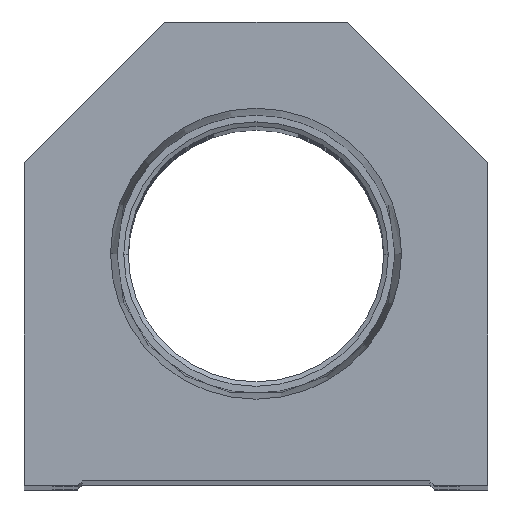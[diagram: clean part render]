
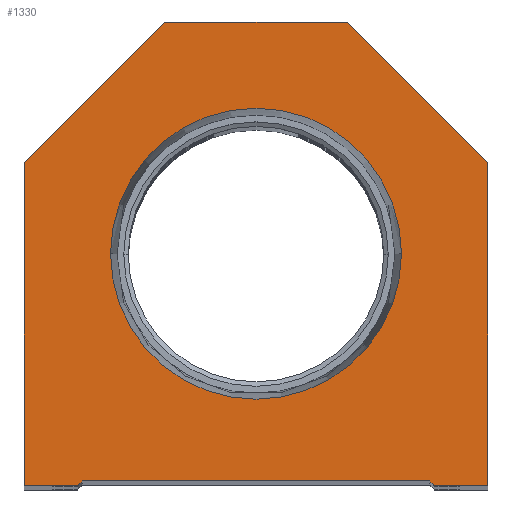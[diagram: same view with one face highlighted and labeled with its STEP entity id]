
A CAD part, top view. The second image highlights one B-rep face of the part: STEP entity #1330.
In plain terms, the highlighted planar face has unit normal (0, 0, 1).
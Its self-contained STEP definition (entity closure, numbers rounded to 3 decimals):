
#5 = LINE ( 'NONE', #4598, #6309 ) ;
#78 = CARTESIAN_POINT ( 'NONE',  ( 0., 25.4, 0. ) ) ;
#231 = DIRECTION ( 'NONE',  ( -0.707, -0.707, 0. ) ) ;
#657 = CARTESIAN_POINT ( 'NONE',  ( 0., 0., 0. ) ) ;
#718 = VERTEX_POINT ( 'NONE', #1663 ) ;
#1018 = LINE ( 'NONE', #8830, #2600 ) ;
#1021 = VECTOR ( 'NONE', #13119, 1000. ) ;
#1072 = DIRECTION ( 'NONE',  ( 0., 0., 1. ) ) ;
#1330 = ADVANCED_FACE ( 'NONE', ( #2221, #18468 ), #15272, .T. ) ;
#1374 = VERTEX_POINT ( 'NONE', #7094 ) ;
#1663 = CARTESIAN_POINT ( 'NONE',  ( -25.4, 35.4, 0. ) ) ;
#1806 = CARTESIAN_POINT ( 'NONE',  ( -25.4, 0., 0. ) ) ;
#2172 = VERTEX_POINT ( 'NONE', #19050 ) ;
#2221 = FACE_BOUND ( 'NONE', #9156, .T. ) ;
#2600 = VECTOR ( 'NONE', #20106, 1000. ) ;
#2701 = ORIENTED_EDGE ( 'NONE', *, *, #4741, .T. ) ;
#2799 = DIRECTION ( 'NONE',  ( 0., -1., 0. ) ) ;
#2913 = VECTOR ( 'NONE', #8258, 1000. ) ;
#2967 = DIRECTION ( 'NONE',  ( 1., 0., 0. ) ) ;
#3277 = LINE ( 'NONE', #9413, #2913 ) ;
#3678 = DIRECTION ( 'NONE',  ( 1., 0., 0. ) ) ;
#3768 = DIRECTION ( 'NONE',  ( 0., 0., 1. ) ) ;
#4126 = AXIS2_PLACEMENT_3D ( 'NONE', #78, #11446, #16239 ) ;
#4250 = CARTESIAN_POINT ( 'NONE',  ( -19.05, 0.5, 0. ) ) ;
#4262 = CARTESIAN_POINT ( 'NONE',  ( -25.4, 0., 0. ) ) ;
#4598 = CARTESIAN_POINT ( 'NONE',  ( -9.775, 9.775, 0. ) ) ;
#4682 = EDGE_LOOP ( 'NONE', ( #16180, #14750, #12584, #2701, #15063, #18509, #10234, #10476, #19378, #13258 ) ) ;
#4716 = EDGE_CURVE ( 'NONE', #6071, #10942, #5, .T. ) ;
#4741 = EDGE_CURVE ( 'NONE', #9015, #18395, #9787, .T. ) ;
#4795 = DIRECTION ( 'NONE',  ( 0.707, 0.707, 0. ) ) ;
#5107 = VECTOR ( 'NONE', #16010, 1000. ) ;
#5268 = EDGE_CURVE ( 'NONE', #17300, #2172, #16222, .T. ) ;
#6071 = VERTEX_POINT ( 'NONE', #14870 ) ;
#6309 = VECTOR ( 'NONE', #4795, 1000. ) ;
#6524 = EDGE_CURVE ( 'NONE', #17991, #6071, #3277, .T. ) ;
#6574 = CARTESIAN_POINT ( 'NONE',  ( -25.4, 35.4, 0. ) ) ;
#6616 = LINE ( 'NONE', #19269, #1021 ) ;
#6734 = CARTESIAN_POINT ( 'NONE',  ( -10., 50.8, 0. ) ) ;
#6757 = CARTESIAN_POINT ( 'NONE',  ( -19.05, 0.5, 0. ) ) ;
#6763 = EDGE_CURVE ( 'NONE', #17679, #10138, #1018, .T. ) ;
#7070 = LINE ( 'NONE', #6757, #14957 ) ;
#7094 = CARTESIAN_POINT ( 'NONE',  ( 25.4, 0., 0. ) ) ;
#7203 = AXIS2_PLACEMENT_3D ( 'NONE', #19224, #3768, #3678 ) ;
#7433 = CARTESIAN_POINT ( 'NONE',  ( 19.05, 0., 0. ) ) ;
#7557 = ORIENTED_EDGE ( 'NONE', *, *, #14925, .F. ) ;
#8208 = AXIS2_PLACEMENT_3D ( 'NONE', #657, #1072, #11814 ) ;
#8258 = DIRECTION ( 'NONE',  ( 1., 0., 0. ) ) ;
#8830 = CARTESIAN_POINT ( 'NONE',  ( 10., 50.8, 0. ) ) ;
#9015 = VERTEX_POINT ( 'NONE', #20034 ) ;
#9156 = EDGE_LOOP ( 'NONE', ( #7557, #11345 ) ) ;
#9413 = CARTESIAN_POINT ( 'NONE',  ( -19.05, 0., 0. ) ) ;
#9587 = VECTOR ( 'NONE', #2967, 1000. ) ;
#9624 = LINE ( 'NONE', #15906, #5107 ) ;
#9787 = LINE ( 'NONE', #12849, #15978 ) ;
#10138 = VERTEX_POINT ( 'NONE', #6734 ) ;
#10234 = ORIENTED_EDGE ( 'NONE', *, *, #10583, .T. ) ;
#10476 = ORIENTED_EDGE ( 'NONE', *, *, #6763, .T. ) ;
#10583 = EDGE_CURVE ( 'NONE', #16132, #17679, #9624, .T. ) ;
#10942 = VERTEX_POINT ( 'NONE', #4250 ) ;
#11086 = LINE ( 'NONE', #6574, #20511 ) ;
#11345 = ORIENTED_EDGE ( 'NONE', *, *, #5268, .F. ) ;
#11446 = DIRECTION ( 'NONE',  ( 0., 0., 1. ) ) ;
#11472 = DIRECTION ( 'NONE',  ( 0.707, -0.707, 0. ) ) ;
#11814 = DIRECTION ( 'NONE',  ( 1., 0., 0. ) ) ;
#12584 = ORIENTED_EDGE ( 'NONE', *, *, #20300, .T. ) ;
#12849 = CARTESIAN_POINT ( 'NONE',  ( 9.775, 9.775, 0. ) ) ;
#13119 = DIRECTION ( 'NONE',  ( 0., 1., 0. ) ) ;
#13162 = DIRECTION ( 'NONE',  ( 1., 0., 0. ) ) ;
#13184 = CARTESIAN_POINT ( 'NONE',  ( 25.4, 35.4, 0. ) ) ;
#13258 = ORIENTED_EDGE ( 'NONE', *, *, #16603, .T. ) ;
#14253 = CARTESIAN_POINT ( 'NONE',  ( -15.947, 25.4, 0. ) ) ;
#14750 = ORIENTED_EDGE ( 'NONE', *, *, #4716, .T. ) ;
#14870 = CARTESIAN_POINT ( 'NONE',  ( -19.55, 0., 0. ) ) ;
#14925 = EDGE_CURVE ( 'NONE', #2172, #17300, #19805, .T. ) ;
#14957 = VECTOR ( 'NONE', #13162, 1000. ) ;
#14996 = VECTOR ( 'NONE', #2799, 1000. ) ;
#15063 = ORIENTED_EDGE ( 'NONE', *, *, #19791, .T. ) ;
#15272 = PLANE ( 'NONE',  #8208 ) ;
#15371 = CARTESIAN_POINT ( 'NONE',  ( 19.55, 0., 0. ) ) ;
#15466 = EDGE_CURVE ( 'NONE', #10138, #718, #11086, .T. ) ;
#15906 = CARTESIAN_POINT ( 'NONE',  ( 25.4, 35.4, 0. ) ) ;
#15978 = VECTOR ( 'NONE', #11472, 1000. ) ;
#16010 = DIRECTION ( 'NONE',  ( -0.707, 0.707, 0. ) ) ;
#16132 = VERTEX_POINT ( 'NONE', #13184 ) ;
#16180 = ORIENTED_EDGE ( 'NONE', *, *, #6524, .T. ) ;
#16222 = CIRCLE ( 'NONE', #7203, 15.947 ) ;
#16239 = DIRECTION ( 'NONE',  ( 1., 0., 0. ) ) ;
#16603 = EDGE_CURVE ( 'NONE', #718, #17991, #19919, .T. ) ;
#17151 = EDGE_CURVE ( 'NONE', #1374, #16132, #6616, .T. ) ;
#17300 = VERTEX_POINT ( 'NONE', #14253 ) ;
#17679 = VERTEX_POINT ( 'NONE', #19379 ) ;
#17991 = VERTEX_POINT ( 'NONE', #1806 ) ;
#18395 = VERTEX_POINT ( 'NONE', #15371 ) ;
#18468 = FACE_OUTER_BOUND ( 'NONE', #4682, .T. ) ;
#18509 = ORIENTED_EDGE ( 'NONE', *, *, #17151, .T. ) ;
#18922 = LINE ( 'NONE', #7433, #9587 ) ;
#19050 = CARTESIAN_POINT ( 'NONE',  ( 15.947, 25.4, 0. ) ) ;
#19224 = CARTESIAN_POINT ( 'NONE',  ( 0., 25.4, 0. ) ) ;
#19269 = CARTESIAN_POINT ( 'NONE',  ( 25.4, 0., 0. ) ) ;
#19378 = ORIENTED_EDGE ( 'NONE', *, *, #15466, .T. ) ;
#19379 = CARTESIAN_POINT ( 'NONE',  ( 10., 50.8, 0. ) ) ;
#19791 = EDGE_CURVE ( 'NONE', #18395, #1374, #18922, .T. ) ;
#19805 = CIRCLE ( 'NONE', #4126, 15.947 ) ;
#19919 = LINE ( 'NONE', #4262, #14996 ) ;
#20034 = CARTESIAN_POINT ( 'NONE',  ( 19.05, 0.5, 0. ) ) ;
#20106 = DIRECTION ( 'NONE',  ( -1., 0., 0. ) ) ;
#20300 = EDGE_CURVE ( 'NONE', #10942, #9015, #7070, .T. ) ;
#20511 = VECTOR ( 'NONE', #231, 1000. ) ;
